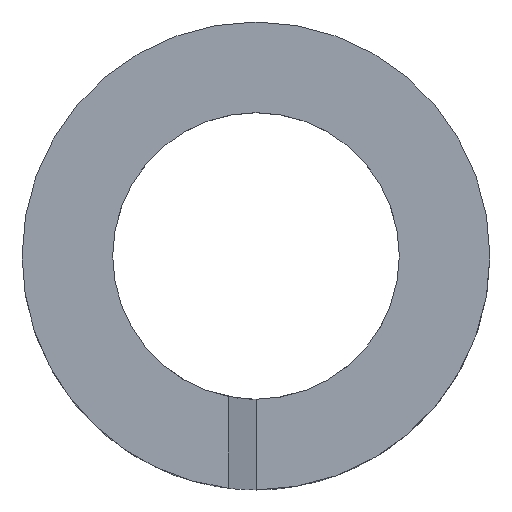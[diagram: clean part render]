
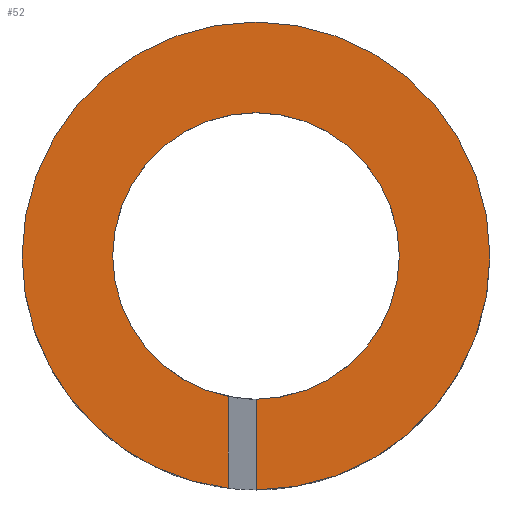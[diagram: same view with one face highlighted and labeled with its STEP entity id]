
A CAD part, top view. The second image highlights one B-rep face of the part: STEP entity #52.
In plain terms, the highlighted planar face has unit normal (0, 0, 1).
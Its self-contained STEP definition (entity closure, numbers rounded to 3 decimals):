
#52=ADVANCED_FACE('',(#69),#70,.T.);
#69=FACE_OUTER_BOUND('',#89,.T.);
#70=PLANE('',#90);
#89=EDGE_LOOP('',(#139,#140,#141,#142,#143,#144,#145,#146));
#90=AXIS2_PLACEMENT_3D('',#147,#148,#149);
#139=ORIENTED_EDGE('',*,*,#194,.T.);
#140=ORIENTED_EDGE('',*,*,#195,.T.);
#141=ORIENTED_EDGE('',*,*,#189,.T.);
#142=ORIENTED_EDGE('',*,*,#186,.T.);
#143=ORIENTED_EDGE('',*,*,#190,.T.);
#144=ORIENTED_EDGE('',*,*,#176,.F.);
#145=ORIENTED_EDGE('',*,*,#196,.F.);
#146=ORIENTED_EDGE('',*,*,#182,.F.);
#147=CARTESIAN_POINT('',(16.125,0.,5.0));
#148=DIRECTION('',(-0.0,0.,1.0));
#149=DIRECTION('',(1.0,0.0,0.0));
#176=EDGE_CURVE('',#199,#202,#203,.T.);
#182=EDGE_CURVE('',#212,#208,#214,.T.);
#186=EDGE_CURVE('',#215,#220,#222,.T.);
#189=EDGE_CURVE('',#224,#215,#227,.T.);
#190=EDGE_CURVE('',#220,#202,#228,.T.);
#194=EDGE_CURVE('',#212,#232,#234,.T.);
#195=EDGE_CURVE('',#232,#224,#235,.T.);
#196=EDGE_CURVE('',#208,#199,#236,.T.);
#199=VERTEX_POINT('',#239);
#202=VERTEX_POINT('',#243);
#203=CIRCLE('',#244,12.25);
#208=VERTEX_POINT('',#249);
#212=VERTEX_POINT('',#254);
#214=CIRCLE('',#256,12.25);
#215=VERTEX_POINT('',#257);
#220=VERTEX_POINT('',#263);
#222=CIRCLE('',#265,20.0);
#224=VERTEX_POINT('',#267);
#227=CIRCLE('',#271,20.0);
#228=LINE('',#272,#273);
#232=VERTEX_POINT('',#279);
#234=LINE('',#281,#282);
#235=CIRCLE('',#283,20.0);
#236=CIRCLE('',#284,12.25);
#239=CARTESIAN_POINT('',(-12.25,0.,5.0));
#243=CARTESIAN_POINT('',(-2.353,-12.022,5.0));
#244=AXIS2_PLACEMENT_3D('',#288,#289,#290);
#249=CARTESIAN_POINT('',(12.25,0.,5.0));
#254=CARTESIAN_POINT('',(0.0,-12.25,5.0));
#256=AXIS2_PLACEMENT_3D('',#304,#305,#306);
#257=CARTESIAN_POINT('',(-20.0,0.,5.0));
#263=CARTESIAN_POINT('',(-2.353,-19.861,5.0));
#265=AXIS2_PLACEMENT_3D('',#314,#315,#316);
#267=CARTESIAN_POINT('',(20.0,0.,5.0));
#271=AXIS2_PLACEMENT_3D('',#321,#322,#323);
#272=CARTESIAN_POINT('',(-2.353,-5.738,5.0));
#273=VECTOR('',#324,1.0);
#279=CARTESIAN_POINT('',(0.0,-20.0,5.0));
#281=CARTESIAN_POINT('',(0.0,-5.738,5.0));
#282=VECTOR('',#330,1.0);
#283=AXIS2_PLACEMENT_3D('',#331,#332,#333);
#284=AXIS2_PLACEMENT_3D('',#334,#335,#336);
#288=CARTESIAN_POINT('',(0.0,0.,5.0));
#289=DIRECTION('',(-0.0,0.,1.0));
#290=DIRECTION('',(1.0,0.0,0.0));
#304=CARTESIAN_POINT('',(0.0,0.,5.0));
#305=DIRECTION('',(-0.0,0.,1.0));
#306=DIRECTION('',(1.0,0.0,0.0));
#314=CARTESIAN_POINT('',(0.0,0.,5.0));
#315=DIRECTION('',(-0.0,0.,1.0));
#316=DIRECTION('',(1.0,0.0,0.0));
#321=CARTESIAN_POINT('',(0.0,0.,5.0));
#322=DIRECTION('',(-0.0,0.,1.0));
#323=DIRECTION('',(1.0,0.0,0.0));
#324=DIRECTION('',(0.0,1.0,0.));
#330=DIRECTION('',(0.0,-1.0,0.));
#331=CARTESIAN_POINT('',(0.0,0.,5.0));
#332=DIRECTION('',(-0.0,0.,1.0));
#333=DIRECTION('',(1.0,0.0,0.0));
#334=CARTESIAN_POINT('',(0.0,0.,5.0));
#335=DIRECTION('',(-0.0,0.,1.0));
#336=DIRECTION('',(1.0,0.0,0.0));
